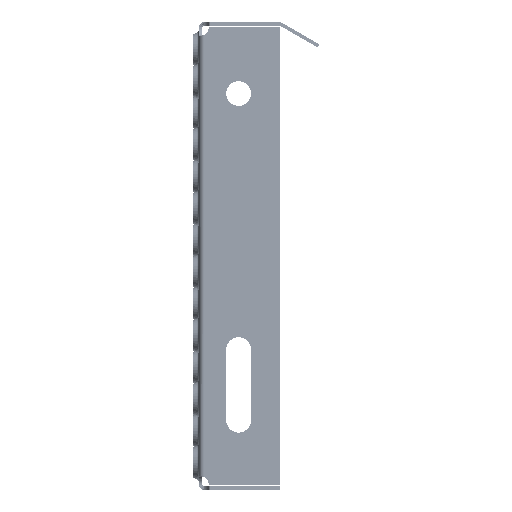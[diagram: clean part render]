
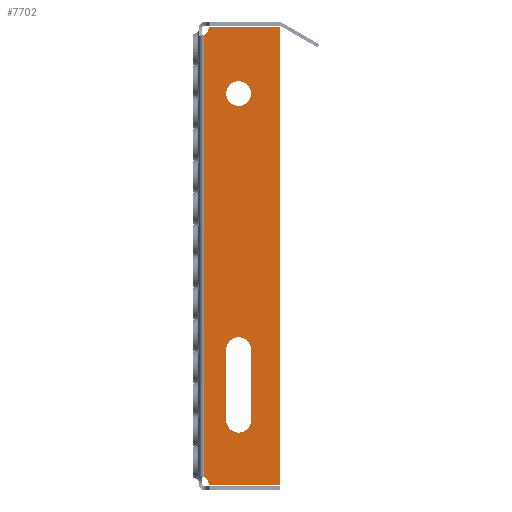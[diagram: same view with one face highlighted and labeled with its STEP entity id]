
A CAD part, left-side view. The second image highlights one B-rep face of the part: STEP entity #7702.
In plain terms, the highlighted planar face has unit normal (-1, 0, 0).
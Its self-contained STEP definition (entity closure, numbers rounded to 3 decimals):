
#493 = DIRECTION ( 'NONE',  ( -1., 0., 0. ) ) ;
#892 = CARTESIAN_POINT ( 'NONE',  ( -700., -6.416, 116. ) ) ;
#1005 = CARTESIAN_POINT ( 'NONE',  ( -700., -3., -147.916 ) ) ;
#1569 = DIRECTION ( 'NONE',  ( 0., 0., -1. ) ) ;
#2079 = DIRECTION ( 'NONE',  ( 0., 0., -1. ) ) ;
#2182 = CIRCLE ( 'NONE', #66457, 7. ) ;
#3070 = EDGE_CURVE ( 'NONE', #40382, #19078, #14152, .T. ) ;
#4475 = ORIENTED_EDGE ( 'NONE', *, *, #43713, .T. ) ;
#4538 = LINE ( 'NONE', #54885, #35603 ) ;
#4857 = CARTESIAN_POINT ( 'NONE',  ( -700., -6.416, -141. ) ) ;
#5018 = AXIS2_PLACEMENT_3D ( 'NONE', #68215, #33067, #74164 ) ;
#5066 = EDGE_CURVE ( 'NONE', #66002, #49567, #68856, .T. ) ;
#5262 = FACE_OUTER_BOUND ( 'NONE', #49534, .T. ) ;
#5622 = VERTEX_POINT ( 'NONE', #21753 ) ;
#6420 = DIRECTION ( 'NONE',  ( 1., 0., 0. ) ) ;
#6751 = DIRECTION ( 'NONE',  ( 0., 0., 1. ) ) ;
#6944 = VECTOR ( 'NONE', #24529, 1000. ) ;
#7087 = FACE_BOUND ( 'NONE', #46809, .T. ) ;
#7702 = ADVANCED_FACE ( 'NONE', ( #5262, #7087, #65729 ), #53255, .F. ) ;
#9186 = CARTESIAN_POINT ( 'NONE',  ( -700., -46., -142. ) ) ;
#9448 = DIRECTION ( 'NONE',  ( 0., 0., 1. ) ) ;
#10644 = ORIENTED_EDGE ( 'NONE', *, *, #5066, .T. ) ;
#10717 = DIRECTION ( 'NONE',  ( 0., 0., -1. ) ) ;
#10828 = CARTESIAN_POINT ( 'NONE',  ( -700., -46., 117. ) ) ;
#11818 = EDGE_CURVE ( 'NONE', #16513, #50336, #20132, .T. ) ;
#12568 = CIRCLE ( 'NONE', #22148, 7. ) ;
#12705 = ORIENTED_EDGE ( 'NONE', *, *, #27673, .T. ) ;
#14152 = CIRCLE ( 'NONE', #59430, 1. ) ;
#15142 = EDGE_CURVE ( 'NONE', #54606, #68646, #4538, .T. ) ;
#16513 = VERTEX_POINT ( 'NONE', #36084 ) ;
#16548 = VERTEX_POINT ( 'NONE', #66694 ) ;
#17175 = EDGE_CURVE ( 'NONE', #5622, #40516, #67408, .T. ) ;
#17183 = CARTESIAN_POINT ( 'NONE',  ( -700., -29.5, -65.5 ) ) ;
#17656 = ORIENTED_EDGE ( 'NONE', *, *, #39013, .F. ) ;
#19078 = VERTEX_POINT ( 'NONE', #70140 ) ;
#19740 = CARTESIAN_POINT ( 'NONE',  ( -700., -6.416, -142. ) ) ;
#20132 = LINE ( 'NONE', #25343, #23847 ) ;
#21753 = CARTESIAN_POINT ( 'NONE',  ( -700., -3., -137.67 ) ) ;
#22148 = AXIS2_PLACEMENT_3D ( 'NONE', #62472, #27396, #68408 ) ;
#23847 = VECTOR ( 'NONE', #2079, 1000. ) ;
#24529 = DIRECTION ( 'NONE',  ( 0., 0., 1. ) ) ;
#24727 = CIRCLE ( 'NONE', #5018, 5. ) ;
#25055 = EDGE_CURVE ( 'NONE', #68646, #16513, #27596, .T. ) ;
#25343 = CARTESIAN_POINT ( 'NONE',  ( -700., -15.5, -65.5 ) ) ;
#27396 = DIRECTION ( 'NONE',  ( -1., 0., 0. ) ) ;
#27596 = CIRCLE ( 'NONE', #71903, 7. ) ;
#27673 = EDGE_CURVE ( 'NONE', #5622, #40382, #30383, .T. ) ;
#28550 = DIRECTION ( 'NONE',  ( 1., 0., 0. ) ) ;
#29054 = VECTOR ( 'NONE', #9448, 1000. ) ;
#29447 = ORIENTED_EDGE ( 'NONE', *, *, #25055, .F. ) ;
#29759 = VERTEX_POINT ( 'NONE', #39654 ) ;
#30383 = CIRCLE ( 'NONE', #48938, 5. ) ;
#30815 = AXIS2_PLACEMENT_3D ( 'NONE', #47377, #6420, #59151 ) ;
#33067 = DIRECTION ( 'NONE',  ( 1., 0., 0. ) ) ;
#34747 = LINE ( 'NONE', #19740, #48535 ) ;
#35477 = CARTESIAN_POINT ( 'NONE',  ( -700., -22.5, 79.5 ) ) ;
#35603 = VECTOR ( 'NONE', #37170, 1000. ) ;
#35814 = ORIENTED_EDGE ( 'NONE', *, *, #70996, .T. ) ;
#36084 = CARTESIAN_POINT ( 'NONE',  ( -700., -15.5, -65.5 ) ) ;
#36565 = DIRECTION ( 'NONE',  ( -1., 0., 0. ) ) ;
#37170 = DIRECTION ( 'NONE',  ( 0., 0., 1. ) ) ;
#37364 = ORIENTED_EDGE ( 'NONE', *, *, #11818, .F. ) ;
#39013 = EDGE_CURVE ( 'NONE', #16548, #16548, #2182, .T. ) ;
#39641 = ORIENTED_EDGE ( 'NONE', *, *, #41969, .T. ) ;
#39654 = CARTESIAN_POINT ( 'NONE',  ( -700., -46., -142. ) ) ;
#40382 = VERTEX_POINT ( 'NONE', #52764 ) ;
#40516 = VERTEX_POINT ( 'NONE', #59669 ) ;
#41419 = DIRECTION ( 'NONE',  ( 0., 0., -1. ) ) ;
#41798 = DIRECTION ( 'NONE',  ( -1., 0., 0. ) ) ;
#41827 = EDGE_CURVE ( 'NONE', #49567, #55403, #45825, .T. ) ;
#41969 = EDGE_CURVE ( 'NONE', #19078, #29759, #34747, .T. ) ;
#43713 = EDGE_CURVE ( 'NONE', #55403, #40516, #24727, .T. ) ;
#45807 = DIRECTION ( 'NONE',  ( -1., 0., 0. ) ) ;
#45825 = CIRCLE ( 'NONE', #66692, 1. ) ;
#46809 = EDGE_LOOP ( 'NONE', ( #17656 ) ) ;
#47377 = CARTESIAN_POINT ( 'NONE',  ( -700., 0.5, -147.916 ) ) ;
#48535 = VECTOR ( 'NONE', #60722, 1000. ) ;
#48938 = AXIS2_PLACEMENT_3D ( 'NONE', #63664, #28550, #69595 ) ;
#49534 = EDGE_LOOP ( 'NONE', ( #53771, #12705, #55551, #39641, #35814, #10644, #59032, #4475 ) ) ;
#49558 = ORIENTED_EDGE ( 'NONE', *, *, #59932, .F. ) ;
#49567 = VERTEX_POINT ( 'NONE', #68548 ) ;
#49571 = VECTOR ( 'NONE', #51800, 1000. ) ;
#50336 = VERTEX_POINT ( 'NONE', #52054 ) ;
#51060 = CARTESIAN_POINT ( 'NONE',  ( -700., -29.5, -105.5 ) ) ;
#51800 = DIRECTION ( 'NONE',  ( 0., 1., 0. ) ) ;
#52054 = CARTESIAN_POINT ( 'NONE',  ( -700., -15.5, -105.5 ) ) ;
#52658 = ORIENTED_EDGE ( 'NONE', *, *, #15142, .F. ) ;
#52764 = CARTESIAN_POINT ( 'NONE',  ( -700., -5.43, -141.167 ) ) ;
#53255 = PLANE ( 'NONE',  #30815 ) ;
#53771 = ORIENTED_EDGE ( 'NONE', *, *, #17175, .F. ) ;
#54606 = VERTEX_POINT ( 'NONE', #51060 ) ;
#54885 = CARTESIAN_POINT ( 'NONE',  ( -700., -29.5, -65.5 ) ) ;
#55403 = VERTEX_POINT ( 'NONE', #64249 ) ;
#55551 = ORIENTED_EDGE ( 'NONE', *, *, #3070, .T. ) ;
#59032 = ORIENTED_EDGE ( 'NONE', *, *, #41827, .T. ) ;
#59151 = DIRECTION ( 'NONE',  ( 0., 0., -1. ) ) ;
#59430 = AXIS2_PLACEMENT_3D ( 'NONE', #4857, #45807, #10717 ) ;
#59669 = CARTESIAN_POINT ( 'NONE',  ( -700., -3., 112.67 ) ) ;
#59932 = EDGE_CURVE ( 'NONE', #50336, #54606, #12568, .T. ) ;
#60231 = LINE ( 'NONE', #9186, #29054 ) ;
#60722 = DIRECTION ( 'NONE',  ( 0., -1., 0. ) ) ;
#61048 = EDGE_LOOP ( 'NONE', ( #37364, #29447, #52658, #49558 ) ) ;
#62472 = CARTESIAN_POINT ( 'NONE',  ( -700., -22.5, -105.5 ) ) ;
#63664 = CARTESIAN_POINT ( 'NONE',  ( -700., -0.5, -142. ) ) ;
#64249 = CARTESIAN_POINT ( 'NONE',  ( -700., -5.43, 116.167 ) ) ;
#65729 = FACE_BOUND ( 'NONE', #61048, .T. ) ;
#66002 = VERTEX_POINT ( 'NONE', #68691 ) ;
#66457 = AXIS2_PLACEMENT_3D ( 'NONE', #35477, #493, #41419 ) ;
#66692 = AXIS2_PLACEMENT_3D ( 'NONE', #892, #41798, #6751 ) ;
#66694 = CARTESIAN_POINT ( 'NONE',  ( -700., -22.5, 72.5 ) ) ;
#67408 = LINE ( 'NONE', #1005, #6944 ) ;
#68215 = CARTESIAN_POINT ( 'NONE',  ( -700., -0.5, 117. ) ) ;
#68408 = DIRECTION ( 'NONE',  ( 0., 0., -1. ) ) ;
#68548 = CARTESIAN_POINT ( 'NONE',  ( -700., -6.416, 117. ) ) ;
#68646 = VERTEX_POINT ( 'NONE', #17183 ) ;
#68691 = CARTESIAN_POINT ( 'NONE',  ( -700., -46., 117. ) ) ;
#68856 = LINE ( 'NONE', #10828, #49571 ) ;
#69595 = DIRECTION ( 'NONE',  ( 0., 0., -1. ) ) ;
#70140 = CARTESIAN_POINT ( 'NONE',  ( -700., -6.416, -142. ) ) ;
#70996 = EDGE_CURVE ( 'NONE', #29759, #66002, #60231, .T. ) ;
#71762 = CARTESIAN_POINT ( 'NONE',  ( -700., -22.5, -65.5 ) ) ;
#71903 = AXIS2_PLACEMENT_3D ( 'NONE', #71762, #36565, #1569 ) ;
#74164 = DIRECTION ( 'NONE',  ( 0., 0., -1. ) ) ;
